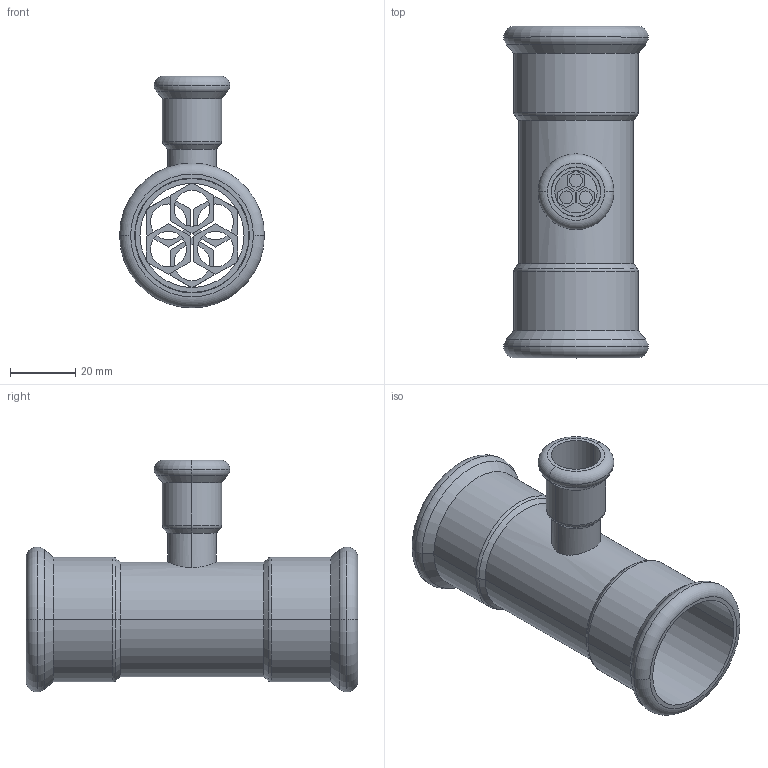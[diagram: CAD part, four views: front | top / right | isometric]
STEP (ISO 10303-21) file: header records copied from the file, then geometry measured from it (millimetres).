
FILE_DESCRIPTION(('OneSpaceDesigner STEP Export'),'2;1');
FILE_NAME('R2715 35x15x35.stp','2010-06-10T 9:01:50',(''),(''),'OneSpace Designer STEP processor for AP214 (Solid Model)','OneSpace Modeling 15.00A 14-Mar-2007 (C) CoCreate Software GmbH','');
FILE_SCHEMA(('AUTOMOTIVE_DESIGN { 1 0 10303 214 1 1 1 1 }'));
Length unit declared in the file: millimetre
Products named in the file (2): R2715_35x15x35
Assembly tree (1 placements, depth 2):
  R2715_35x15x35
    R2715_35x15x35
Bounding box: 44.55 x 102 x 71.28 mm (x, y, z)
Volume: 26662.2 mm3; surface area: 30346.7 mm2
Topology: 1 solids, 1 shells, 174 faces, 429 edges, 274 vertices
Faces by surface type: plane 90, cylinder 54, torus 18, cone 12
Entity records: 5548 total; most frequent: CARTESIAN_POINT 1711, ORIENTED_EDGE 858, DIRECTION 683, EDGE_CURVE 429, VERTEX_POINT 274, VECTOR 263, LINE 263, EDGE_LOOP 211
